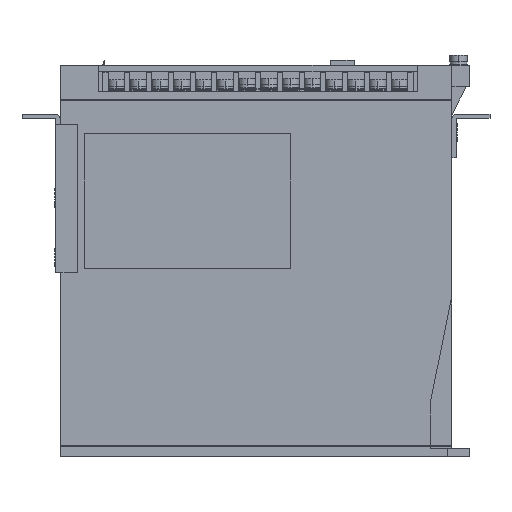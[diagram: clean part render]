
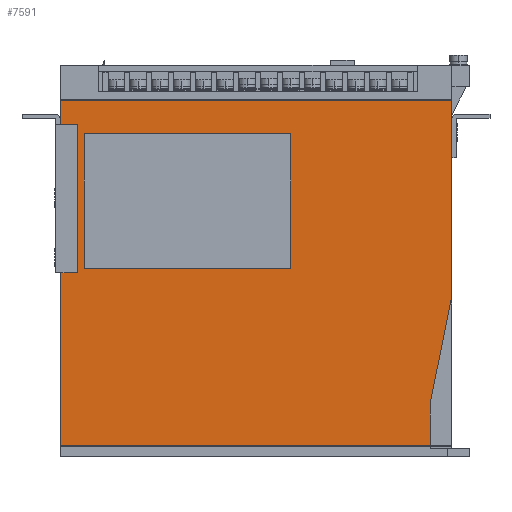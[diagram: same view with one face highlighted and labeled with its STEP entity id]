
A CAD part, left-side view. The second image highlights one B-rep face of the part: STEP entity #7591.
In plain terms, the highlighted planar face has unit normal (-1, 0, 0).
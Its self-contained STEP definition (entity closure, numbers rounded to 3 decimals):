
#2030 = VERTEX_POINT ( 'NONE', #26117 ) ;
#2034 = EDGE_CURVE ( 'NONE', #2030, #2036, #26110, .T. ) ;
#2036 = VERTEX_POINT ( 'NONE', #26106 ) ;
#6705 = EDGE_CURVE ( 'NONE', #2036, #6707, #33551, .T. ) ;
#6707 = VERTEX_POINT ( 'NONE', #33547 ) ;
#7501 = VERTEX_POINT ( 'NONE', #34848 ) ;
#7505 = EDGE_CURVE ( 'NONE', #2030, #7501, #34843, .T. ) ;
#7591 = ADVANCED_FACE ( 'NONE', ( #34972, #34971 ), #34970, .F. ) ;
#7593 = EDGE_LOOP ( 'NONE', ( #7595, #7634, #7641, #7646 ) ) ;
#7595 = ORIENTED_EDGE ( 'NONE', *, *, #7630, .F. ) ;
#7630 = EDGE_CURVE ( 'NONE', #7631, #7632, #35044, .T. ) ;
#7631 = VERTEX_POINT ( 'NONE', #35040 ) ;
#7632 = VERTEX_POINT ( 'NONE', #35039 ) ;
#7634 = ORIENTED_EDGE ( 'NONE', *, *, #7637, .F. ) ;
#7637 = EDGE_CURVE ( 'NONE', #7638, #7631, #35038, .T. ) ;
#7638 = VERTEX_POINT ( 'NONE', #35034 ) ;
#7641 = ORIENTED_EDGE ( 'NONE', *, *, #7643, .F. ) ;
#7643 = EDGE_CURVE ( 'NONE', #7644, #7638, #35027, .T. ) ;
#7644 = VERTEX_POINT ( 'NONE', #35023 ) ;
#7646 = ORIENTED_EDGE ( 'NONE', *, *, #7648, .F. ) ;
#7648 = EDGE_CURVE ( 'NONE', #7632, #7644, #35022, .T. ) ;
#7649 = EDGE_LOOP ( 'NONE', ( #7652, #7690, #7696, #7701, #7703, #7705 ) ) ;
#7652 = ORIENTED_EDGE ( 'NONE', *, *, #7654, .T. ) ;
#7654 = EDGE_CURVE ( 'NONE', #7501, #7655, #35075, .T. ) ;
#7655 = VERTEX_POINT ( 'NONE', #35071 ) ;
#7690 = ORIENTED_EDGE ( 'NONE', *, *, #7691, .F. ) ;
#7691 = EDGE_CURVE ( 'NONE', #7694, #7655, #35148, .T. ) ;
#7694 = VERTEX_POINT ( 'NONE', #35137 ) ;
#7696 = ORIENTED_EDGE ( 'NONE', *, *, #7699, .T. ) ;
#7699 = EDGE_CURVE ( 'NONE', #7694, #6707, #35136, .T. ) ;
#7701 = ORIENTED_EDGE ( 'NONE', *, *, #6705, .F. ) ;
#7703 = ORIENTED_EDGE ( 'NONE', *, *, #2034, .F. ) ;
#7705 = ORIENTED_EDGE ( 'NONE', *, *, #7505, .T. ) ;
#26106 = CARTESIAN_POINT ( 'NONE',  ( -95., -175., 163.8 ) ) ;
#26107 = DIRECTION ( 'NONE',  ( 0., -1., 0. ) ) ;
#26108 = VECTOR ( 'NONE', #26107, 1000. ) ;
#26109 = CARTESIAN_POINT ( 'NONE',  ( -95., 5., 163.8 ) ) ;
#26110 = LINE ( 'NONE', #26109, #26108 ) ;
#26117 = CARTESIAN_POINT ( 'NONE',  ( -95., 5., 163.8 ) ) ;
#33547 = CARTESIAN_POINT ( 'NONE',  ( -95., -175., 74.4 ) ) ;
#33548 = DIRECTION ( 'NONE',  ( 0., 0., -1. ) ) ;
#33549 = VECTOR ( 'NONE', #33548, 1000. ) ;
#33550 = CARTESIAN_POINT ( 'NONE',  ( -95., -175., 369.913 ) ) ;
#33551 = LINE ( 'NONE', #33550, #33549 ) ;
#34840 = DIRECTION ( 'NONE',  ( 0., 0., -1. ) ) ;
#34841 = VECTOR ( 'NONE', #34840, 1000. ) ;
#34842 = CARTESIAN_POINT ( 'NONE',  ( -95., 5., 369.913 ) ) ;
#34843 = LINE ( 'NONE', #34842, #34841 ) ;
#34848 = CARTESIAN_POINT ( 'NONE',  ( -95., 5., 5.2 ) ) ;
#34966 = DIRECTION ( 'NONE',  ( 0., 0., -1. ) ) ;
#34967 = DIRECTION ( 'NONE',  ( 1., 0., 0. ) ) ;
#34968 = CARTESIAN_POINT ( 'NONE',  ( -95., 5., 369.913 ) ) ;
#34969 = AXIS2_PLACEMENT_3D ( 'NONE', #34968, #34967, #34966 ) ;
#34970 = PLANE ( 'NONE',  #34969 ) ;
#34971 = FACE_OUTER_BOUND ( 'NONE', #7649, .T. ) ;
#34972 = FACE_BOUND ( 'NONE', #7593, .T. ) ;
#35020 = VECTOR ( 'NONE', #35082, 1000. ) ;
#35021 = CARTESIAN_POINT ( 'NONE',  ( -95., -101., 86.5 ) ) ;
#35022 = LINE ( 'NONE', #35021, #35020 ) ;
#35023 = CARTESIAN_POINT ( 'NONE',  ( -95., -101., 148.5 ) ) ;
#35024 = DIRECTION ( 'NONE',  ( 0., 1., 0. ) ) ;
#35025 = VECTOR ( 'NONE', #35024, 1000. ) ;
#35026 = CARTESIAN_POINT ( 'NONE',  ( -95., -6., 148.5 ) ) ;
#35027 = LINE ( 'NONE', #35026, #35025 ) ;
#35034 = CARTESIAN_POINT ( 'NONE',  ( -95., -6., 148.5 ) ) ;
#35035 = DIRECTION ( 'NONE',  ( 0., 0., -1. ) ) ;
#35036 = VECTOR ( 'NONE', #35035, 1000. ) ;
#35037 = CARTESIAN_POINT ( 'NONE',  ( -95., -6., 86.5 ) ) ;
#35038 = LINE ( 'NONE', #35037, #35036 ) ;
#35039 = CARTESIAN_POINT ( 'NONE',  ( -95., -101., 86.5 ) ) ;
#35040 = CARTESIAN_POINT ( 'NONE',  ( -95., -6., 86.5 ) ) ;
#35041 = DIRECTION ( 'NONE',  ( 0., -1., 0. ) ) ;
#35042 = VECTOR ( 'NONE', #35041, 1000. ) ;
#35043 = CARTESIAN_POINT ( 'NONE',  ( -95., -6., 86.5 ) ) ;
#35044 = LINE ( 'NONE', #35043, #35042 ) ;
#35071 = CARTESIAN_POINT ( 'NONE',  ( -95., -165., 5.2 ) ) ;
#35072 = DIRECTION ( 'NONE',  ( 0., -1., 0. ) ) ;
#35073 = VECTOR ( 'NONE', #35072, 1000. ) ;
#35074 = CARTESIAN_POINT ( 'NONE',  ( -95., 5., 5.2 ) ) ;
#35075 = LINE ( 'NONE', #35074, #35073 ) ;
#35082 = DIRECTION ( 'NONE',  ( 0., 0., 1. ) ) ;
#35133 = DIRECTION ( 'NONE',  ( 0., -0.196, 0.981 ) ) ;
#35134 = VECTOR ( 'NONE', #35133, 1000. ) ;
#35135 = CARTESIAN_POINT ( 'NONE',  ( -95., -165., 24.4 ) ) ;
#35136 = LINE ( 'NONE', #35135, #35134 ) ;
#35137 = CARTESIAN_POINT ( 'NONE',  ( -95., -165., 24.4 ) ) ;
#35145 = DIRECTION ( 'NONE',  ( 0., 0., -1. ) ) ;
#35146 = VECTOR ( 'NONE', #35145, 1000. ) ;
#35147 = CARTESIAN_POINT ( 'NONE',  ( -95., -165., 24.4 ) ) ;
#35148 = LINE ( 'NONE', #35147, #35146 ) ;
